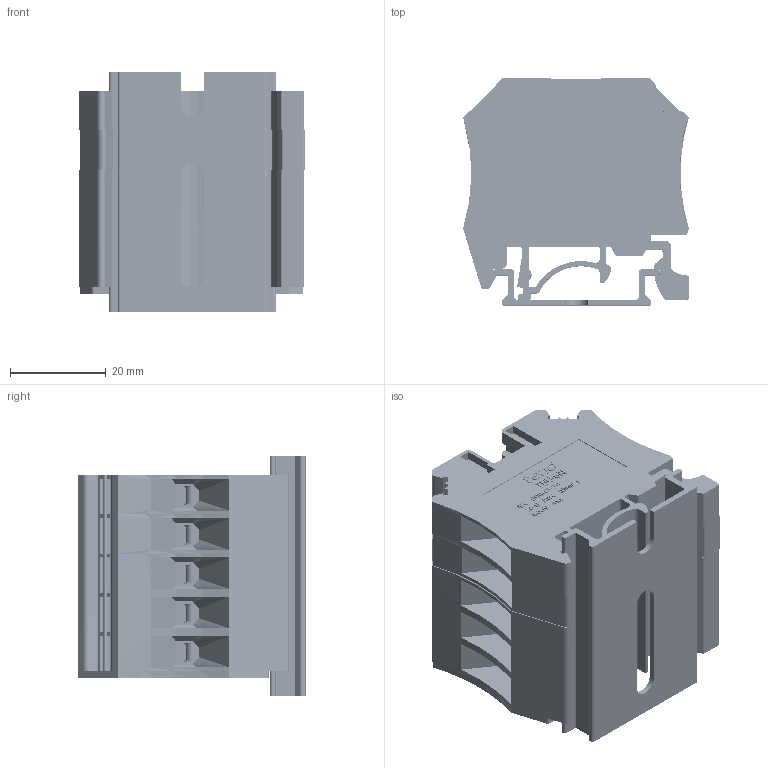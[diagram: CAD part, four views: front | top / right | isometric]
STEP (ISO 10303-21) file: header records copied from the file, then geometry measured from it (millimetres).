
FILE_DESCRIPTION((''),'2;1');
FILE_NAME('ASM0001_ASM','2016-06-13T',('Administrator'),(''),'PRO/ENGINEER BY PARAMETRIC TECHNOLOGY CORPORATION, 2012360','PRO/ENGINEER BY PARAMETRIC TECHNOLOGY CORPORATION, 2012360','');
FILE_SCHEMA(('CONFIG_CONTROL_DESIGN'));
Products named in the file (1): ASM0001_ASM
Bounding box: 47.2 x 47.5 x 50 mm (x, y, z)
Volume: 35447.7 mm3; surface area: 55123.6 mm2
Topology: 1 solids, 54 shells, 10611 faces, 30312 edges, 19821 vertices
Faces by surface type: plane 9440, cylinder 890, bspline 195, cone 86
Entity records: 373039 total; most frequent: CARTESIAN_POINT 97670, ORIENTED_EDGE 60544, DIRECTION 51463, EDGE_CURVE 30272, VECTOR 27503, LINE 27503, VERTEX_POINT 19801, AXIS2_PLACEMENT_3D 11980
